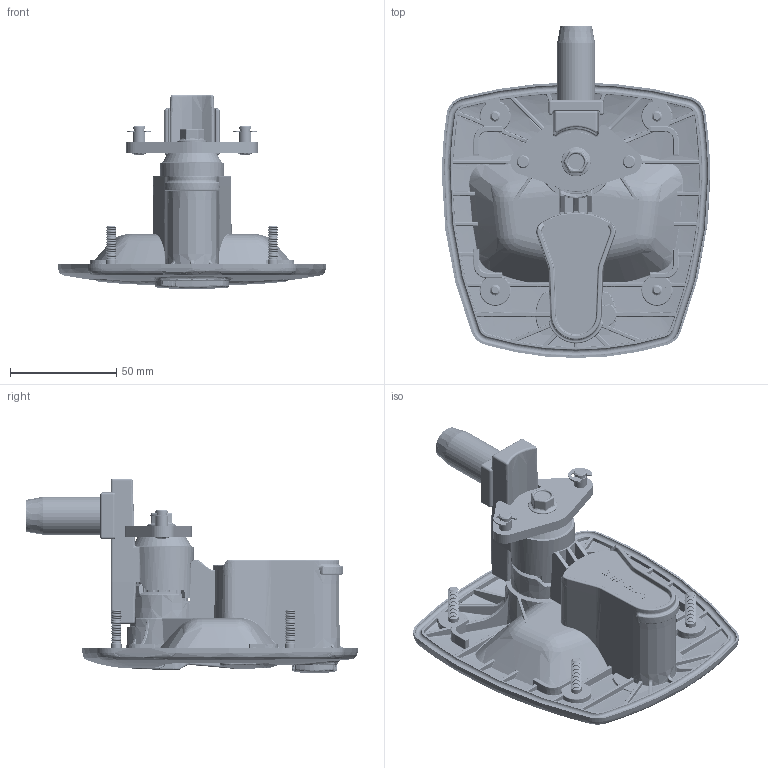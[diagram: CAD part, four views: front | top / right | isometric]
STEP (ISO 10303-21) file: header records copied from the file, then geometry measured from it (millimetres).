
FILE_DESCRIPTION (( 'STEP AP214' ), '1' );
FILE_NAME ('2752-10626110-04_Industrilas.step', '2023-03-19T19:30:21', ( '' ), ( '' ), 'SwSTEP 2.0', 'SolidWorks 2010', '' );
FILE_SCHEMA (( 'AUTOMOTIVE_DESIGN' ));
Length unit declared in the file: millimetre
Products named in the file (34): 00130333(Default)-3; 00128650(Default)-3; 00130713-3; 00007187(Default-(ejnyckel))-3; 00007186(Default)-3; 00003160-3; Cylinder_751; 00003163-3; 00003162-3; 00002075; 275020-9(275020-9-6); 275020-9-3; 2321s1401-r05; 275020-9-1; 012115-45(012115-45); 00001807(Default); 275020-14s-001(275020-14S-001); 052087-5(NITAD)-2; 00124954(Default)-3; 00129950(Default)-3; 00127856-3; 00086199-3; 297001-3; 275020-8(Default)-3; 297017-3; 00120601(Syrafast)-3; 00127963-3; 00127962(Default)-3; 275020-18-3; 00130449-3; 062190-2; 012103-20gf; 00117436-3; 2752-10626110-04_Industrilas
Assembly tree (43 placements, depth 4):
  2752-10626110-04_Industrilas
    297017-3
    012103-20gf
    00001807(Default)
      275020-14s-001(275020-14S-001)
      052087-5(NITAD)-2  x2
    275020-8(Default)-3
    062190-2  x2
    297001-3
    00130333(Default)-3
      00130713-3  x4
      00128650(Default)-3
    00007187(Default-(ejnyckel))-3
      00007186(Default)-3
        00003162-3  x6
        Cylinder_751
        00003160-3
        00003163-3
    00086199-3
    00130449-3
    00127856-3
    275020-18-3
    00129950(Default)-3
    00127962(Default)-3
    00124954(Default)-3
    00127963-3
    00120601(Syrafast)-3
    00002075
      2321s1401-r05
      275020-9(275020-9-6)
      275020-9-3
      012115-45(012115-45)
      275020-9-1
    00117436-3
Bounding box: 126.45 x 156.46 x 91.8 mm (x, y, z)
Volume: 176225.3 mm3; surface area: 122225.6 mm2
Topology: 38 solids, 38 shells, 7597 faces, 19211 edges, 11633 vertices
Faces by surface type: plane 2421, cylinder 1927, bspline 1341, cone 994, torus 501, sphere 413
Entity records: 199377 total; most frequent: CARTESIAN_POINT 84124, ORIENTED_EDGE 25180, DIRECTION 22339, EDGE_CURVE 12590, AXIS2_PLACEMENT_3D 8994, VERTEX_POINT 7450, EDGE_LOOP 5394, ADVANCED_FACE 5268
